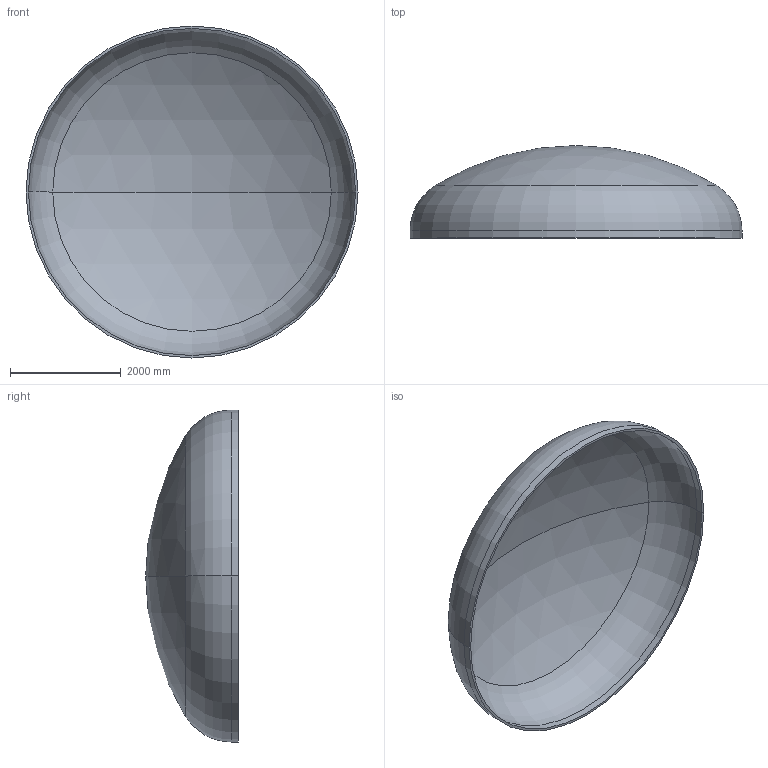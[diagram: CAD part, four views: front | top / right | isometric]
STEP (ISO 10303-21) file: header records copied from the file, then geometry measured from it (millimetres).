
FILE_DESCRIPTION (( 'STEP AP203' ), '1' );
FILE_NAME ('DIN 28013 Korbbogenform_-_Boden DIN 28013 - 6000 x 130 - I - s=43.step', '2016-07-04T10:37:04', ( '' ), ( '' ), 'SwSTEP 2.0', 'SolidWorks 2013', '' );
FILE_SCHEMA (( 'CONFIG_CONTROL_DESIGN' ));
Length unit declared in the file: millimetre
Products named in the file (1): DIN 28013 Korbbogenform_-_Boden DIN 28013 - 6000 x 130 - I - s=43
Bounding box: 6000 x 1673.52 x 6000 mm (x, y, z)
Volume: 1772965261.6 mm3; surface area: 83272063.5 mm2
Topology: 1 solids, 1 shells, 13 faces, 24 edges, 14 vertices
Faces by surface type: torus 4, cylinder 4, sphere 4, plane 1
Entity records: 407 total; most frequent: DIRECTION 72, CARTESIAN_POINT 52, ORIENTED_EDGE 48, AXIS2_PLACEMENT_3D 34, EDGE_CURVE 24, CIRCLE 20, VERTEX_POINT 14, EDGE_LOOP 14
